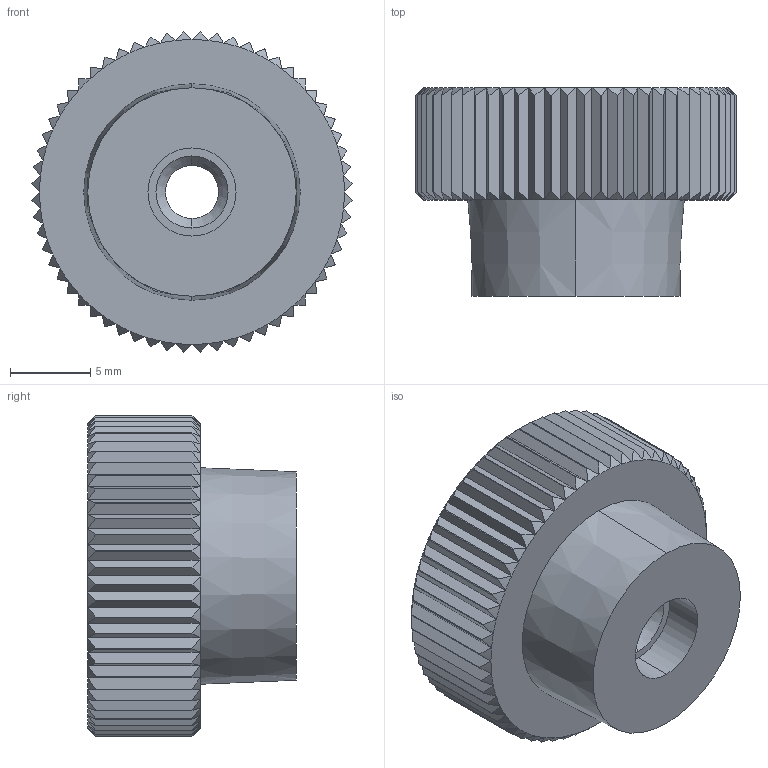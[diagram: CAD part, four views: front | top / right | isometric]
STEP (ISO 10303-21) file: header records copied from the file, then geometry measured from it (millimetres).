
FILE_DESCRIPTION (( 'STEP AP203' ), '1' );
FILE_NAME ('wn4662_20-m4.step', '2007-02-15T10:21:43', ( 'Magnus Fahlstrom' ), ( '' ), 'SwSTEP 2.0', 'SolidWorks 2007', '' );
FILE_SCHEMA (( 'CONFIG_CONTROL_DESIGN' ));
Length unit declared in the file: millimetre
Products named in the file (1): wn4662_20-m4
Bounding box: 19.98 x 13 x 19.98 mm (x, y, z)
Volume: 2459.4 mm3; surface area: 1725.6 mm2
Topology: 2 solids, 2 shells, 320 faces, 698 edges, 384 vertices
Faces by surface type: cone 128, plane 126, cylinder 66
Entity records: 8817 total; most frequent: CARTESIAN_POINT 2123, ORIENTED_EDGE 1396, DIRECTION 1364, EDGE_CURVE 698, AXIS2_PLACEMENT_3D 585, VERTEX_POINT 384, EDGE_LOOP 326, ADVANCED_FACE 320
